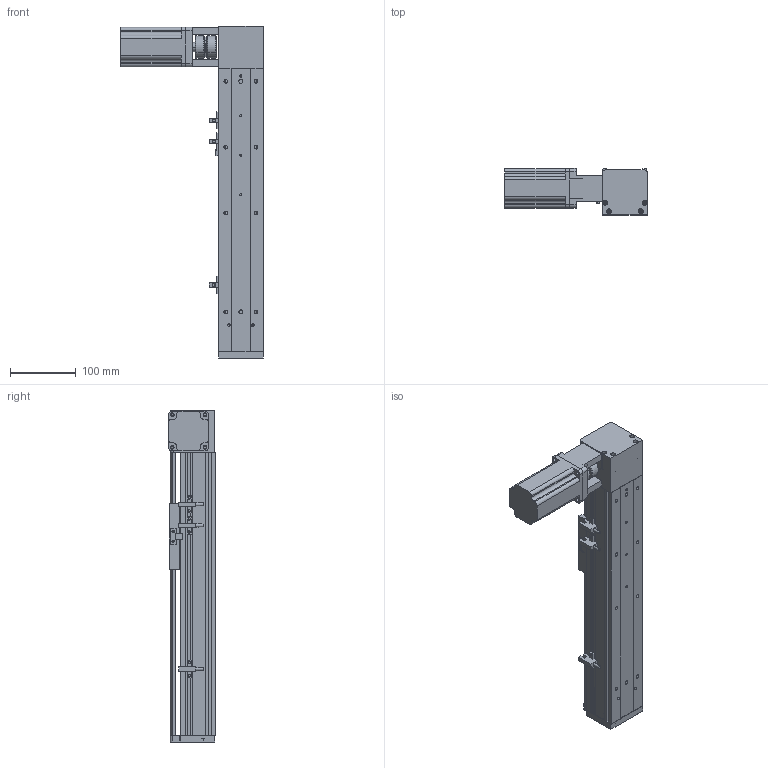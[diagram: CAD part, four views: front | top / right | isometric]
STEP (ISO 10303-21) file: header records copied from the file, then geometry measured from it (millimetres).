
FILE_DESCRIPTION (( 'STEP AP203' ), '1' );
FILE_NAME ('ML68-S250-BL.STEP', '2016-06-01T03:02:34', ( '微软用户' ), ( '微软中国' ), 'SwSTEP 2.0', 'SolidWorks 2014', '' );
FILE_SCHEMA (( 'CONFIG_CONTROL_DESIGN' ));
Length unit declared in the file: millimetre
Products named in the file (11): 換覜ん; 三协电机MH201N2_預設; 联轴器（CS34X32-8X14）_預設; MS68-TS0204鎮湛嘐隅釱_蕼偞; ML68-奻裔^ML68-S250-BL; ML68-BL傷啣; ML68雄赽釱; 60換覜結え; ML68-S250-BL; ML68-菁釱^ML68-S250-BL; ML68傷啣
Assembly tree (12 placements, depth 2):
  ML68-S250-BL
    ML68-BL傷啣
    60換覜結え
    ML68-菁釱^ML68-S250-BL
    ML68傷啣
    換覜ん  x3
    三协电机MH201N2_預設
    联轴器（CS34X32-8X14）_預設
    MS68-TS0204鎮湛嘐隅釱_蕼偞
    ML68-奻裔^ML68-S250-BL
    ML68雄赽釱
Bounding box: 216.5 x 70.5 x 504 mm (x, y, z)
Volume: 1252128 mm3; surface area: 389706.7 mm2
Topology: 13 solids, 13 shells, 805 faces, 2181 edges, 1381 vertices
Faces by surface type: cylinder 367, plane 334, cone 96, bspline 8
Entity records: 25224 total; most frequent: CARTESIAN_POINT 4846, DIRECTION 4141, ORIENTED_EDGE 3886, EDGE_CURVE 1943, AXIS2_PLACEMENT_3D 1510, VERTEX_POINT 1269, VECTOR 1121, LINE 1121
